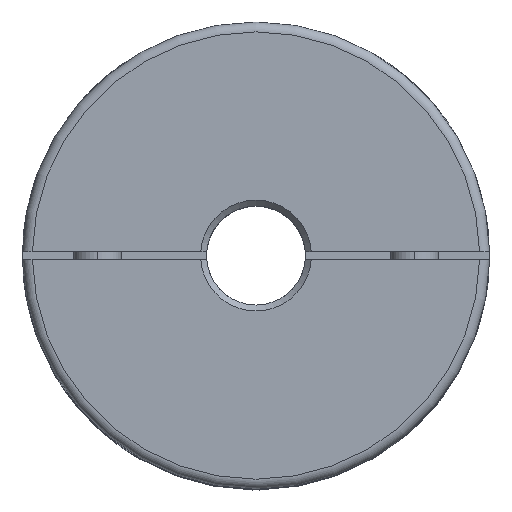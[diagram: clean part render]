
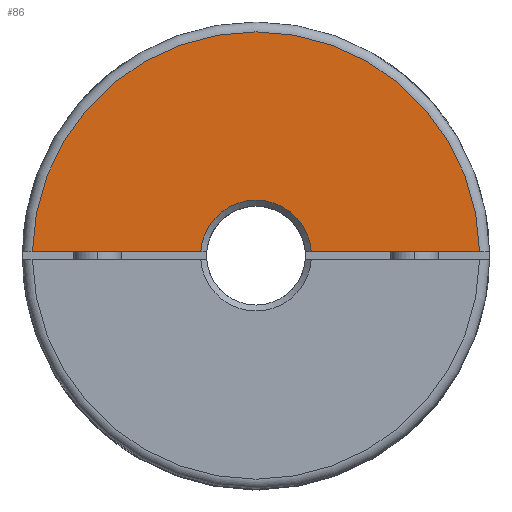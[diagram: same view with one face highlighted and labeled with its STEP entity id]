
A CAD part, top view. The second image highlights one B-rep face of the part: STEP entity #86.
In plain terms, the highlighted planar face has unit normal (0, 0, 1).
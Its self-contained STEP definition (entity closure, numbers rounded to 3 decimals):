
#86 = ADVANCED_FACE ( 'NONE', ( #1296 ), #3980, .F. ) ;
#1296 = FACE_OUTER_BOUND ( 'NONE', #2980, .T. ) ;
#2084 = CARTESIAN_POINT ( 'NONE',  ( 13.964, 1., 69. ) ) ;
#2353 = AXIS2_PLACEMENT_3D ( 'NONE', #3984, #3979, #3978 ) ;
#2773 = VERTEX_POINT ( 'NONE', #7587 ) ;
#2776 = VERTEX_POINT ( 'NONE', #8517 ) ;
#2778 = VERTEX_POINT ( 'NONE', #3608 ) ;
#2784 = VERTEX_POINT ( 'NONE', #2084 ) ;
#2980 = EDGE_LOOP ( 'NONE', ( #9360, #9169, #9340, #9345 ) ) ;
#3608 = CARTESIAN_POINT ( 'NONE',  ( 56.491, 1., 69. ) ) ;
#3978 = DIRECTION ( 'NONE',  ( 1., 0., 0. ) ) ;
#3979 = DIRECTION ( 'NONE',  ( 0., 0., -1. ) ) ;
#3980 = PLANE ( 'NONE',  #2353 ) ;
#3984 = CARTESIAN_POINT ( 'NONE',  ( 0., 0., 69. ) ) ;
#5115 = AXIS2_PLACEMENT_3D ( 'NONE', #5595, #5596, #5597 ) ;
#5116 = AXIS2_PLACEMENT_3D ( 'NONE', #5598, #5599, #5600 ) ;
#5461 = CARTESIAN_POINT ( 'NONE',  ( 59., 1., 69. ) ) ;
#5465 = DIRECTION ( 'NONE',  ( -1., 0., 0. ) ) ;
#5560 = CARTESIAN_POINT ( 'NONE',  ( 59., 1., 69. ) ) ;
#5575 = DIRECTION ( 'NONE',  ( -1., 0., 0. ) ) ;
#5595 = CARTESIAN_POINT ( 'NONE',  ( 0., 0., 69. ) ) ;
#5596 = DIRECTION ( 'NONE',  ( 0., 0., 1. ) ) ;
#5597 = DIRECTION ( 'NONE',  ( 1., 0., 0. ) ) ;
#5598 = CARTESIAN_POINT ( 'NONE',  ( 0., 0., 69. ) ) ;
#5599 = DIRECTION ( 'NONE',  ( 0., 0., -1. ) ) ;
#5600 = DIRECTION ( 'NONE',  ( 1., 0., 0. ) ) ;
#7587 = CARTESIAN_POINT ( 'NONE',  ( -13.964, 1., 69. ) ) ;
#8264 = EDGE_CURVE ( 'NONE', #2773, #2776, #11013, .T. ) ;
#8287 = EDGE_CURVE ( 'NONE', #2778, #2784, #11051, .T. ) ;
#8295 = EDGE_CURVE ( 'NONE', #2778, #2776, #11076, .T. ) ;
#8296 = EDGE_CURVE ( 'NONE', #2773, #2784, #11068, .T. ) ;
#8517 = CARTESIAN_POINT ( 'NONE',  ( -56.491, 1., 69. ) ) ;
#9169 = ORIENTED_EDGE ( 'NONE', *, *, #8264, .F. ) ;
#9340 = ORIENTED_EDGE ( 'NONE', *, *, #8296, .T. ) ;
#9345 = ORIENTED_EDGE ( 'NONE', *, *, #8287, .F. ) ;
#9360 = ORIENTED_EDGE ( 'NONE', *, *, #8295, .T. ) ;
#11013 = LINE ( 'NONE', #5461, #11043 ) ;
#11043 = VECTOR ( 'NONE', #5465, 1000. ) ;
#11051 = LINE ( 'NONE', #5560, #11069 ) ;
#11068 = CIRCLE ( 'NONE', #5116, 14. ) ;
#11069 = VECTOR ( 'NONE', #5575, 1000. ) ;
#11076 = CIRCLE ( 'NONE', #5115, 56.5 ) ;
